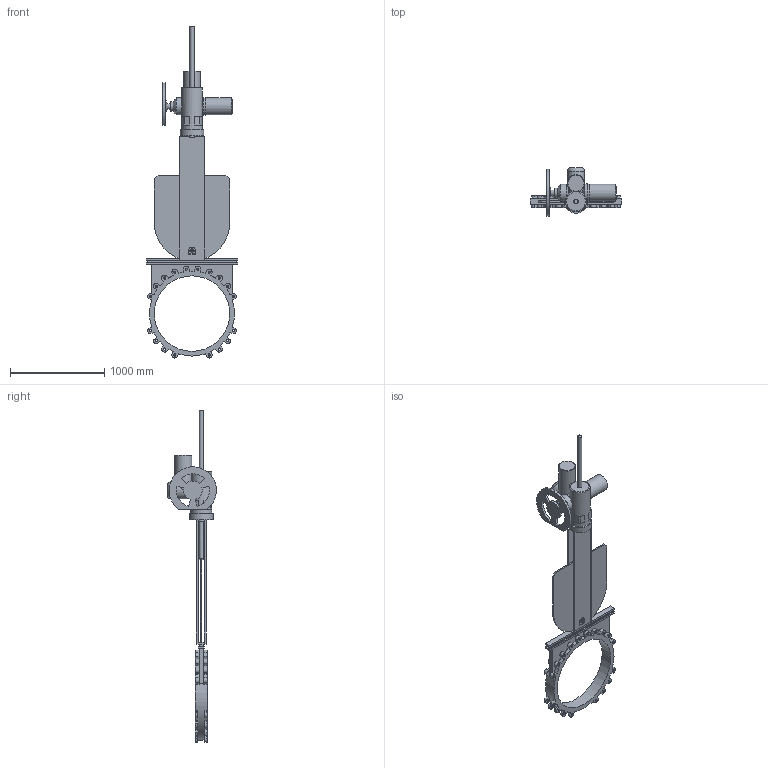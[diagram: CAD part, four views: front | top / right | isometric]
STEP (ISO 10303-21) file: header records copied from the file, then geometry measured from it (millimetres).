
FILE_DESCRIPTION(('STEP AP203'), '1');
FILE_NAME('K21GVA_DN800+MT903.A 80', '', ('UNSPECIFIED'), ('UNSPECIFIED'), 'ASCON STEP Converter 1.6', 'ASCON Math Kernel', '');
FILE_SCHEMA(('CONFIG_CONTROL_DESIGN'));
Length unit declared in the file: millimetre
Bounding box: 975 x 516.46 x 3521.17 mm (x, y, z)
Volume: 91384425 mm3; surface area: 6358337.8 mm2
Topology: 1 solids, 2 shells, 466 faces, 1271 edges, 835 vertices
Faces by surface type: plane 227, cylinder 200, cone 38, torus 1
Full cylindrical faces by diameter (mm): 13.835 x8, 18 x8, 23.752 x36, 46 x2, 60 x1, 80 x1, 100 x1, 140 x2, 180 x4, 187 x1, 191 x1, 220 x1, 250 x1, 800 x1, 901 x1
Entity records: 18914 total; most frequent: CARTESIAN_POINT 3475, DIRECTION 2540, ORIENTED_EDGE 2270, EDGE_CURVE 1135, AXIS2_PLACEMENT_3D 961, VERTEX_POINT 806, EDGE_LOOP 639, LINE 618
